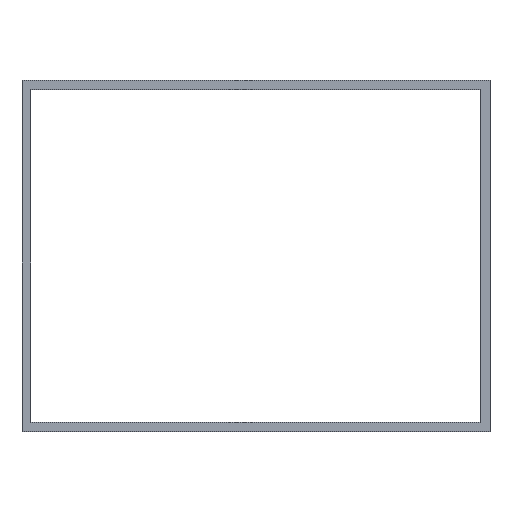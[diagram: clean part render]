
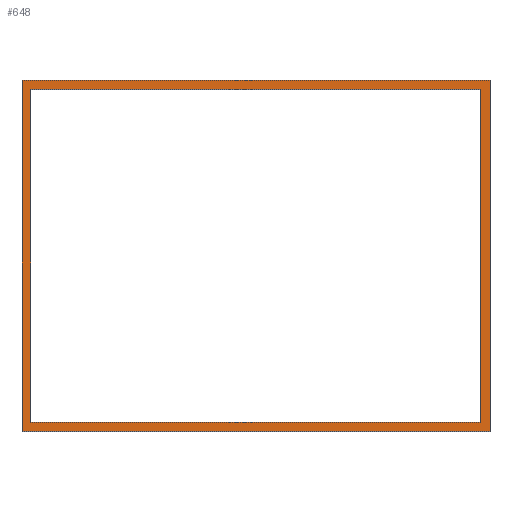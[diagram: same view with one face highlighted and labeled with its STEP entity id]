
A CAD part, top view. The second image highlights one B-rep face of the part: STEP entity #648.
In plain terms, the highlighted planar face has unit normal (0, 0, 1).
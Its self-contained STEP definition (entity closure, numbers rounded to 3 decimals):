
#24 = VERTEX_POINT('',#25);
#25 = CARTESIAN_POINT('',(-130.,-97.5,612.));
#32 = PLANE('',#33);
#33 = AXIS2_PLACEMENT_3D('',#34,#35,#36);
#34 = CARTESIAN_POINT('',(-130.,-97.5,600.));
#35 = DIRECTION('',(0.,1.,0.));
#36 = DIRECTION('',(1.,0.,0.));
#44 = PLANE('',#45);
#45 = AXIS2_PLACEMENT_3D('',#46,#47,#48);
#46 = CARTESIAN_POINT('',(-130.,97.5,600.));
#47 = DIRECTION('',(1.,0.,-0.));
#48 = DIRECTION('',(0.,-1.,0.));
#56 = EDGE_CURVE('',#24,#57,#59,.T.);
#57 = VERTEX_POINT('',#58);
#58 = CARTESIAN_POINT('',(130.,-97.5,612.));
#59 = SURFACE_CURVE('',#60,(#64,#71),.PCURVE_S1.);
#60 = LINE('',#61,#62);
#61 = CARTESIAN_POINT('',(-130.,-97.5,612.));
#62 = VECTOR('',#63,1.);
#63 = DIRECTION('',(1.,0.,0.));
#64 = PCURVE('',#32,#65);
#65 = DEFINITIONAL_REPRESENTATION('',(#66),#70);
#66 = LINE('',#67,#68);
#67 = CARTESIAN_POINT('',(0.,-12.));
#68 = VECTOR('',#69,1.);
#69 = DIRECTION('',(1.,0.));
#70 = ( GEOMETRIC_REPRESENTATION_CONTEXT(2) 
PARAMETRIC_REPRESENTATION_CONTEXT() REPRESENTATION_CONTEXT('2D SPACE',''
  ) );
#71 = PCURVE('',#72,#77);
#72 = PLANE('',#73);
#73 = AXIS2_PLACEMENT_3D('',#74,#75,#76);
#74 = CARTESIAN_POINT('',(0.,0.,612.));
#75 = DIRECTION('',(0.,0.,1.));
#76 = DIRECTION('',(1.,0.,-0.));
#77 = DEFINITIONAL_REPRESENTATION('',(#78),#82);
#78 = LINE('',#79,#80);
#79 = CARTESIAN_POINT('',(-130.,-97.5));
#80 = VECTOR('',#81,1.);
#81 = DIRECTION('',(1.,0.));
#82 = ( GEOMETRIC_REPRESENTATION_CONTEXT(2) 
PARAMETRIC_REPRESENTATION_CONTEXT() REPRESENTATION_CONTEXT('2D SPACE',''
  ) );
#100 = PLANE('',#101);
#101 = AXIS2_PLACEMENT_3D('',#102,#103,#104);
#102 = CARTESIAN_POINT('',(130.,-97.5,600.));
#103 = DIRECTION('',(-1.,0.,0.));
#104 = DIRECTION('',(0.,1.,0.));
#142 = EDGE_CURVE('',#57,#143,#145,.T.);
#143 = VERTEX_POINT('',#144);
#144 = CARTESIAN_POINT('',(130.,97.5,612.));
#145 = SURFACE_CURVE('',#146,(#150,#157),.PCURVE_S1.);
#146 = LINE('',#147,#148);
#147 = CARTESIAN_POINT('',(130.,-97.5,612.));
#148 = VECTOR('',#149,1.);
#149 = DIRECTION('',(0.,1.,0.));
#150 = PCURVE('',#100,#151);
#151 = DEFINITIONAL_REPRESENTATION('',(#152),#156);
#152 = LINE('',#153,#154);
#153 = CARTESIAN_POINT('',(0.,-12.));
#154 = VECTOR('',#155,1.);
#155 = DIRECTION('',(1.,0.));
#156 = ( GEOMETRIC_REPRESENTATION_CONTEXT(2) 
PARAMETRIC_REPRESENTATION_CONTEXT() REPRESENTATION_CONTEXT('2D SPACE',''
  ) );
#157 = PCURVE('',#72,#158);
#158 = DEFINITIONAL_REPRESENTATION('',(#159),#163);
#159 = LINE('',#160,#161);
#160 = CARTESIAN_POINT('',(130.,-97.5));
#161 = VECTOR('',#162,1.);
#162 = DIRECTION('',(0.,1.));
#163 = ( GEOMETRIC_REPRESENTATION_CONTEXT(2) 
PARAMETRIC_REPRESENTATION_CONTEXT() REPRESENTATION_CONTEXT('2D SPACE',''
  ) );
#181 = PLANE('',#182);
#182 = AXIS2_PLACEMENT_3D('',#183,#184,#185);
#183 = CARTESIAN_POINT('',(130.,97.5,600.));
#184 = DIRECTION('',(0.,-1.,0.));
#185 = DIRECTION('',(-1.,0.,0.));
#218 = EDGE_CURVE('',#143,#219,#221,.T.);
#219 = VERTEX_POINT('',#220);
#220 = CARTESIAN_POINT('',(-130.,97.5,612.));
#221 = SURFACE_CURVE('',#222,(#226,#233),.PCURVE_S1.);
#222 = LINE('',#223,#224);
#223 = CARTESIAN_POINT('',(130.,97.5,612.));
#224 = VECTOR('',#225,1.);
#225 = DIRECTION('',(-1.,0.,0.));
#226 = PCURVE('',#181,#227);
#227 = DEFINITIONAL_REPRESENTATION('',(#228),#232);
#228 = LINE('',#229,#230);
#229 = CARTESIAN_POINT('',(0.,-12.));
#230 = VECTOR('',#231,1.);
#231 = DIRECTION('',(1.,0.));
#232 = ( GEOMETRIC_REPRESENTATION_CONTEXT(2) 
PARAMETRIC_REPRESENTATION_CONTEXT() REPRESENTATION_CONTEXT('2D SPACE',''
  ) );
#233 = PCURVE('',#72,#234);
#234 = DEFINITIONAL_REPRESENTATION('',(#235),#239);
#235 = LINE('',#236,#237);
#236 = CARTESIAN_POINT('',(130.,97.5));
#237 = VECTOR('',#238,1.);
#238 = DIRECTION('',(-1.,0.));
#239 = ( GEOMETRIC_REPRESENTATION_CONTEXT(2) 
PARAMETRIC_REPRESENTATION_CONTEXT() REPRESENTATION_CONTEXT('2D SPACE',''
  ) );
#289 = EDGE_CURVE('',#219,#24,#290,.T.);
#290 = SURFACE_CURVE('',#291,(#295,#302),.PCURVE_S1.);
#291 = LINE('',#292,#293);
#292 = CARTESIAN_POINT('',(-130.,97.5,612.));
#293 = VECTOR('',#294,1.);
#294 = DIRECTION('',(0.,-1.,0.));
#295 = PCURVE('',#44,#296);
#296 = DEFINITIONAL_REPRESENTATION('',(#297),#301);
#297 = LINE('',#298,#299);
#298 = CARTESIAN_POINT('',(0.,-12.));
#299 = VECTOR('',#300,1.);
#300 = DIRECTION('',(1.,0.));
#301 = ( GEOMETRIC_REPRESENTATION_CONTEXT(2) 
PARAMETRIC_REPRESENTATION_CONTEXT() REPRESENTATION_CONTEXT('2D SPACE',''
  ) );
#302 = PCURVE('',#72,#303);
#303 = DEFINITIONAL_REPRESENTATION('',(#304),#308);
#304 = LINE('',#305,#306);
#305 = CARTESIAN_POINT('',(-130.,97.5));
#306 = VECTOR('',#307,1.);
#307 = DIRECTION('',(0.,-1.));
#308 = ( GEOMETRIC_REPRESENTATION_CONTEXT(2) 
PARAMETRIC_REPRESENTATION_CONTEXT() REPRESENTATION_CONTEXT('2D SPACE',''
  ) );
#338 = VERTEX_POINT('',#339);
#339 = CARTESIAN_POINT('',(-125.,92.5,612.));
#346 = PLANE('',#347);
#347 = AXIS2_PLACEMENT_3D('',#348,#349,#350);
#348 = CARTESIAN_POINT('',(-125.,92.5,600.));
#349 = DIRECTION('',(1.,0.,-0.));
#350 = DIRECTION('',(0.,-1.,0.));
#358 = PLANE('',#359);
#359 = AXIS2_PLACEMENT_3D('',#360,#361,#362);
#360 = CARTESIAN_POINT('',(125.,92.5,600.));
#361 = DIRECTION('',(0.,-1.,0.));
#362 = DIRECTION('',(-1.,0.,0.));
#370 = EDGE_CURVE('',#338,#371,#373,.T.);
#371 = VERTEX_POINT('',#372);
#372 = CARTESIAN_POINT('',(-125.,-92.5,612.));
#373 = SURFACE_CURVE('',#374,(#378,#385),.PCURVE_S1.);
#374 = LINE('',#375,#376);
#375 = CARTESIAN_POINT('',(-125.,92.5,612.));
#376 = VECTOR('',#377,1.);
#377 = DIRECTION('',(0.,-1.,0.));
#378 = PCURVE('',#346,#379);
#379 = DEFINITIONAL_REPRESENTATION('',(#380),#384);
#380 = LINE('',#381,#382);
#381 = CARTESIAN_POINT('',(0.,-12.));
#382 = VECTOR('',#383,1.);
#383 = DIRECTION('',(1.,0.));
#384 = ( GEOMETRIC_REPRESENTATION_CONTEXT(2) 
PARAMETRIC_REPRESENTATION_CONTEXT() REPRESENTATION_CONTEXT('2D SPACE',''
  ) );
#385 = PCURVE('',#72,#386);
#386 = DEFINITIONAL_REPRESENTATION('',(#387),#391);
#387 = LINE('',#388,#389);
#388 = CARTESIAN_POINT('',(-125.,92.5));
#389 = VECTOR('',#390,1.);
#390 = DIRECTION('',(0.,-1.));
#391 = ( GEOMETRIC_REPRESENTATION_CONTEXT(2) 
PARAMETRIC_REPRESENTATION_CONTEXT() REPRESENTATION_CONTEXT('2D SPACE',''
  ) );
#409 = PLANE('',#410);
#410 = AXIS2_PLACEMENT_3D('',#411,#412,#413);
#411 = CARTESIAN_POINT('',(-125.,-92.5,600.));
#412 = DIRECTION('',(0.,1.,0.));
#413 = DIRECTION('',(1.,0.,0.));
#448 = VERTEX_POINT('',#449);
#449 = CARTESIAN_POINT('',(125.,92.5,612.));
#463 = PLANE('',#464);
#464 = AXIS2_PLACEMENT_3D('',#465,#466,#467);
#465 = CARTESIAN_POINT('',(125.,-92.5,600.));
#466 = DIRECTION('',(-1.,0.,0.));
#467 = DIRECTION('',(0.,1.,0.));
#475 = EDGE_CURVE('',#448,#338,#476,.T.);
#476 = SURFACE_CURVE('',#477,(#481,#488),.PCURVE_S1.);
#477 = LINE('',#478,#479);
#478 = CARTESIAN_POINT('',(125.,92.5,612.));
#479 = VECTOR('',#480,1.);
#480 = DIRECTION('',(-1.,0.,0.));
#481 = PCURVE('',#358,#482);
#482 = DEFINITIONAL_REPRESENTATION('',(#483),#487);
#483 = LINE('',#484,#485);
#484 = CARTESIAN_POINT('',(0.,-12.));
#485 = VECTOR('',#486,1.);
#486 = DIRECTION('',(1.,0.));
#487 = ( GEOMETRIC_REPRESENTATION_CONTEXT(2) 
PARAMETRIC_REPRESENTATION_CONTEXT() REPRESENTATION_CONTEXT('2D SPACE',''
  ) );
#488 = PCURVE('',#72,#489);
#489 = DEFINITIONAL_REPRESENTATION('',(#490),#494);
#490 = LINE('',#491,#492);
#491 = CARTESIAN_POINT('',(125.,92.5));
#492 = VECTOR('',#493,1.);
#493 = DIRECTION('',(-1.,0.));
#494 = ( GEOMETRIC_REPRESENTATION_CONTEXT(2) 
PARAMETRIC_REPRESENTATION_CONTEXT() REPRESENTATION_CONTEXT('2D SPACE',''
  ) );
#524 = VERTEX_POINT('',#525);
#525 = CARTESIAN_POINT('',(125.,-92.5,612.));
#546 = EDGE_CURVE('',#524,#448,#547,.T.);
#547 = SURFACE_CURVE('',#548,(#552,#559),.PCURVE_S1.);
#548 = LINE('',#549,#550);
#549 = CARTESIAN_POINT('',(125.,-92.5,612.));
#550 = VECTOR('',#551,1.);
#551 = DIRECTION('',(0.,1.,0.));
#552 = PCURVE('',#463,#553);
#553 = DEFINITIONAL_REPRESENTATION('',(#554),#558);
#554 = LINE('',#555,#556);
#555 = CARTESIAN_POINT('',(0.,-12.));
#556 = VECTOR('',#557,1.);
#557 = DIRECTION('',(1.,0.));
#558 = ( GEOMETRIC_REPRESENTATION_CONTEXT(2) 
PARAMETRIC_REPRESENTATION_CONTEXT() REPRESENTATION_CONTEXT('2D SPACE',''
  ) );
#559 = PCURVE('',#72,#560);
#560 = DEFINITIONAL_REPRESENTATION('',(#561),#565);
#561 = LINE('',#562,#563);
#562 = CARTESIAN_POINT('',(125.,-92.5));
#563 = VECTOR('',#564,1.);
#564 = DIRECTION('',(0.,1.));
#565 = ( GEOMETRIC_REPRESENTATION_CONTEXT(2) 
PARAMETRIC_REPRESENTATION_CONTEXT() REPRESENTATION_CONTEXT('2D SPACE',''
  ) );
#593 = EDGE_CURVE('',#371,#524,#594,.T.);
#594 = SURFACE_CURVE('',#595,(#599,#606),.PCURVE_S1.);
#595 = LINE('',#596,#597);
#596 = CARTESIAN_POINT('',(-125.,-92.5,612.));
#597 = VECTOR('',#598,1.);
#598 = DIRECTION('',(1.,0.,0.));
#599 = PCURVE('',#409,#600);
#600 = DEFINITIONAL_REPRESENTATION('',(#601),#605);
#601 = LINE('',#602,#603);
#602 = CARTESIAN_POINT('',(0.,-12.));
#603 = VECTOR('',#604,1.);
#604 = DIRECTION('',(1.,0.));
#605 = ( GEOMETRIC_REPRESENTATION_CONTEXT(2) 
PARAMETRIC_REPRESENTATION_CONTEXT() REPRESENTATION_CONTEXT('2D SPACE',''
  ) );
#606 = PCURVE('',#72,#607);
#607 = DEFINITIONAL_REPRESENTATION('',(#608),#612);
#608 = LINE('',#609,#610);
#609 = CARTESIAN_POINT('',(-125.,-92.5));
#610 = VECTOR('',#611,1.);
#611 = DIRECTION('',(1.,0.));
#612 = ( GEOMETRIC_REPRESENTATION_CONTEXT(2) 
PARAMETRIC_REPRESENTATION_CONTEXT() REPRESENTATION_CONTEXT('2D SPACE',''
  ) );
#648 = ADVANCED_FACE('',(#649,#655),#72,.T.);
#649 = FACE_BOUND('',#650,.T.);
#650 = EDGE_LOOP('',(#651,#652,#653,#654));
#651 = ORIENTED_EDGE('',*,*,#56,.T.);
#652 = ORIENTED_EDGE('',*,*,#142,.T.);
#653 = ORIENTED_EDGE('',*,*,#218,.T.);
#654 = ORIENTED_EDGE('',*,*,#289,.T.);
#655 = FACE_BOUND('',#656,.T.);
#656 = EDGE_LOOP('',(#657,#658,#659,#660));
#657 = ORIENTED_EDGE('',*,*,#370,.F.);
#658 = ORIENTED_EDGE('',*,*,#475,.F.);
#659 = ORIENTED_EDGE('',*,*,#546,.F.);
#660 = ORIENTED_EDGE('',*,*,#593,.F.);
